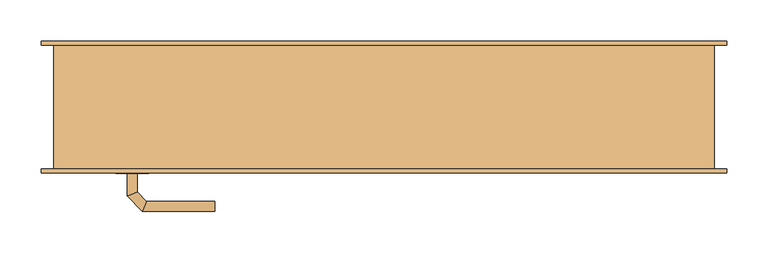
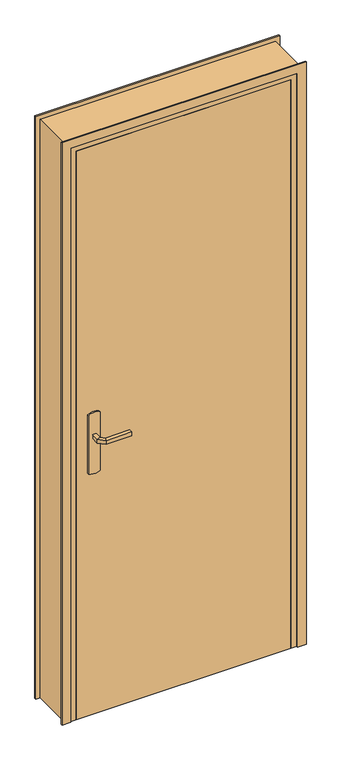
"""IFC4 building model written with IfcOpenShell, lengths in millimetres: door geometry, @_Int. Simple : @_PP (0.73m x 2.04m)."""

from ifc_helpers import new_model, si_unit, point, frame, frame_2d, origin, origin_with_axes, place, context, project, spatial, polyline, circle_curve, ellipse_curve, trimmed, segment, composite_curve, outline, extrude, faceted_brep, source, transform, mapped, element, save
from ifc_brep_helpers import plane_surface, cylinder_surface, advanced_brep


def door_1f832047(model_context):
    return source(origin(), model_context, "Body", "SolidModel", [
        extrude(outline(composite_curve([segment(trimmed(circle_curve(frame_2d((904.6410162, -340.0)), 40.0), [point((870.0, -360.0))], [point((870.0, -320.0))], False, "CARTESIAN"), True, "CONTINUOUS"), segment(polyline([(870.0, -320.0), (1080.0, -320.0)]), True, "CONTINUOUS"), segment(trimmed(circle_curve(frame_2d((1045.3589838, -340.0)), 40.0), [point((1080.0, -320.0))], [point((1080.0, -360.0))], False, "CARTESIAN"), True, "CONTINUOUS"), segment(polyline([(1080.0, -360.0), (870.0, -360.0)]), True, "CONTINUOUS")], self_intersect=False)), frame((0.0, -80.0, 0.0), z_axis=(0.0, 1.0, 0.0), x_axis=(0.0, 0.0, 1.0)), (0.0, 0.0, 1.0), 5.0),
        extrude(outline(composite_curve([segment(trimmed(circle_curve(frame_2d((1045.3589838, -340.0)), 40.0), [point((1080.0, -320.0))], [point((1080.0, -360.0))], False, "CARTESIAN"), True, "CONTINUOUS"), segment(polyline([(1080.0, -360.0), (870.0, -360.0)]), True, "CONTINUOUS"), segment(trimmed(circle_curve(frame_2d((904.6410162, -340.0)), 40.0), [point((870.0, -360.0))], [point((870.0, -320.0))], False, "CARTESIAN"), True, "CONTINUOUS"), segment(polyline([(870.0, -320.0), (1080.0, -320.0)]), True, "CONTINUOUS")], self_intersect=False)), frame((0.0, -35.0, 0.0), z_axis=(0.0, 1.0, 0.0), x_axis=(0.0, 0.0, 1.0)), (0.0, 0.0, 1.0), 5.0),
        advanced_brep(
        [(-346.0, -80.0, 1007.0), (-334.0, -80.0, 1007.0), (-334.0, -80.0, 993.0), (-346.0, -80.0, 993.0), (-346.0, -107.6509507, 1007.0), (-334.0, -102.680388, 1007.0), (-334.0, -102.680388, 993.0), (-346.0, -107.6509507, 993.0), (-327.62279, -126.0281607, 1007.0), (-322.6522273, -114.0281607, 1007.0), (-322.6522273, -114.0281607, 993.0), (-327.62279, -126.0281607, 993.0), (-239.9813594, -126.0281607, 1007.0), (-239.9813594, -126.0281607, 993.0), (-239.9813594, -114.0281607, 993.0), (-239.9813594, -114.0281607, 1007.0)],
        [
            (0, 1, circle_curve(frame((-340.0, -80.0, 986.9542278), z_axis=(0.0, 1.0, 0.0), x_axis=(1.0, 0.0, 0.0)), 20.9244589)),
            (1, 2),
            (2, 3, circle_curve(frame((-340.0, -80.0, 1013.0457722), z_axis=(0.0, 1.0, 0.0), x_axis=(1.0, 0.0, 0.0)), 20.9244589)),
            (3, 0),
            (0, 4),
            (4, 5, ellipse_curve(frame((-340.0, -105.1656693, 986.9542278), z_axis=(-0.3826834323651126, 0.9238795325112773, 0.0), x_axis=(0.9238795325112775, 0.38268343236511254, 0.0)), 22.6484711, 20.9244589)),
            (5, 1),
            (5, 6),
            (6, 2),
            (6, 7, ellipse_curve(frame((-340.0, -105.1656693, 1013.0457722), z_axis=(-0.3826834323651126, 0.9238795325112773, 0.0), x_axis=(0.9238795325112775, 0.38268343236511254, 0.0)), 22.6484711, 20.9244589)),
            (7, 3),
            (7, 4),
            (4, 8),
            (8, 9, ellipse_curve(frame((-325.1375086, -120.0281607, 986.9542278), z_axis=(-0.9238795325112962, 0.38268343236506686, 0.0), x_axis=(0.3826834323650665, 0.9238795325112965, 0.0)), 22.6484711, 20.9244589)),
            (9, 5),
            (9, 10),
            (10, 6),
            (10, 11, ellipse_curve(frame((-325.1375086, -120.0281607, 1013.0457722), z_axis=(-0.9238795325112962, 0.38268343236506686, 0.0), x_axis=(0.3826834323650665, 0.9238795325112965, 0.0)), 22.6484711, 20.9244589)),
            (11, 7),
            (11, 8),
            (12, 13),
            (13, 14, circle_curve(frame((-239.9813594, -120.0281607, 1013.0457722), z_axis=(1.0, 0.0, 0.0), x_axis=(0.0, 1.0, 0.0)), 20.9244589)),
            (14, 15),
            (15, 12, circle_curve(frame((-239.9813594, -120.0281607, 986.9542278), z_axis=(1.0, 0.0, 0.0), x_axis=(0.0, 1.0, 0.0)), 20.9244589)),
            (8, 12),
            (15, 9),
            (14, 10),
            (13, 11),
        ],
        [
            plane_surface(frame((-349.2195445, -80.0, 1000.0), z_axis=(0.0, 1.0, 0.0), x_axis=(0.0, 0.0, -1.0))),
            cylinder_surface(frame((-340.0, -80.0, 986.9542278), z_axis=(0.0, 1.0, 0.0), x_axis=(1.0, 0.0, 0.0)), 20.9244589),
            plane_surface(frame((-334.0, -80.0, 1007.0), z_axis=(1.0, 0.0, 0.0), x_axis=(0.0, -1.0, 0.0))),
            cylinder_surface(frame((-340.0, -80.0, 1013.0457722), z_axis=(0.0, 1.0, 0.0), x_axis=(1.0, 0.0, 0.0)), 20.9244589),
            plane_surface(frame((-346.0, -80.0, 993.0), z_axis=(-1.0, 0.0, 0.0), x_axis=(0.0, -1.0, 0.0))),
            cylinder_surface(frame((-340.0, -105.1656693, 986.9542278), z_axis=(-0.7071067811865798, 0.7071067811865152, 0.0), x_axis=(0.7071067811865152, 0.7071067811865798, 0.0)), 20.9244589),
            plane_surface(frame((-334.0, -102.680388, 1007.0), z_axis=(0.7071067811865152, 0.7071067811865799, 0.0), x_axis=(0.7071067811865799, -0.7071067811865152, 0.0))),
            cylinder_surface(frame((-340.0, -105.1656693, 1013.0457722), z_axis=(-0.7071067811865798, 0.7071067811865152, 0.0), x_axis=(0.7071067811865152, 0.7071067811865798, 0.0)), 20.9244589),
            plane_surface(frame((-346.0, -107.6509507, 993.0), z_axis=(-0.7071067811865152, -0.7071067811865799, 0.0), x_axis=(0.7071067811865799, -0.7071067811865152, 0.0))),
            plane_surface(frame((-239.9813594, -120.0281607, 990.7804555), z_axis=(1.0, 0.0, 0.0), x_axis=(0.0, 1.0, 0.0))),
            cylinder_surface(frame((-325.1375086, -120.0281607, 986.9542278), z_axis=(-1.0, 0.0, 0.0), x_axis=(0.0, 1.0, 0.0)), 20.9244589),
            plane_surface(frame((-322.6522273, -114.0281607, 1007.0), z_axis=(0.0, 1.0, 0.0), x_axis=(1.0, 0.0, 0.0))),
            cylinder_surface(frame((-325.1375086, -120.0281607, 1013.0457722), z_axis=(-1.0, 0.0, 0.0), x_axis=(0.0, 1.0, 0.0)), 20.9244589),
            plane_surface(frame((-327.62279, -126.0281607, 993.0), z_axis=(0.0, -1.0, 0.0), x_axis=(1.0, 0.0, 0.0))),
        ],
        [
            (0, [[1, 2, 3, 4]]),
            (1, [[-1, 5, 6, 7]]),
            (2, [[-2, -7, 8, 9]]),
            (3, [[-3, -9, 10, 11]]),
            (4, [[-4, -11, 12, -5]]),
            (5, [[-6, 13, 14, 15]]),
            (6, [[-8, -15, 16, 17]]),
            (7, [[-10, -17, 18, 19]]),
            (8, [[-12, -19, 20, -13]]),
            (9, [[21, 22, 23, 24]]),
            (10, [[-14, 25, -24, 26]]),
            (11, [[-16, -26, -23, 27]]),
            (12, [[-18, -27, -22, 28]]),
            (13, [[-20, -28, -21, -25]]),
        ],
    ),
        advanced_brep(
        [(-334.0, -30.0, 993.0), (-334.0, -30.0, 1007.0), (-346.0, -30.0, 1007.0), (-346.0, -30.0, 993.0), (-334.0, -7.5147955, 993.0), (-334.0, -7.5147955, 1007.0), (-346.0, -2.5442327, 1007.0), (-346.0, -2.5442327, 993.0), (-322.5147186, 3.9704859, 993.0), (-322.5147186, 3.9704859, 1007.0), (-327.4852814, 15.9704859, 1007.0), (-327.4852814, 15.9704859, 993.0), (-239.9542163, 3.9704859, 993.0), (-239.9542163, 15.9704859, 993.0), (-239.9542163, 15.9704859, 1007.0), (-239.9542163, 3.9704859, 1007.0)],
        [
            (0, 1),
            (1, 2, circle_curve(frame((-340.0, -30.0, 986.9542278), z_axis=(0.0, -1.0, 0.0), x_axis=(-1.0, 0.0, 0.0)), 20.9244589)),
            (2, 3),
            (3, 0, circle_curve(frame((-340.0, -30.0, 1013.0457722), z_axis=(0.0, -1.0, 0.0), x_axis=(-1.0, 0.0, 0.0)), 20.9244589)),
            (0, 4),
            (4, 5),
            (5, 1),
            (5, 6, ellipse_curve(frame((-340.0, -5.0295141, 986.9542278), z_axis=(-0.3826834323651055, -0.9238795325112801, 0.0), x_axis=(0.9238795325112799, -0.3826834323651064, 0.0)), 22.6484711, 20.9244589)),
            (6, 2),
            (6, 7),
            (7, 3),
            (7, 4, ellipse_curve(frame((-340.0, -5.0295141, 1013.0457722), z_axis=(-0.3826834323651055, -0.9238795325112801, 0.0), x_axis=(0.9238795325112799, -0.3826834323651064, 0.0)), 22.6484711, 20.9244589)),
            (4, 8),
            (8, 9),
            (9, 5),
            (9, 10, ellipse_curve(frame((-325.0, 9.9704859, 986.9542278), z_axis=(-0.9238795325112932, -0.382683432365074, 0.0), x_axis=(0.3826834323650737, -0.9238795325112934, 0.0)), 22.6484711, 20.9244589)),
            (10, 6),
            (10, 11),
            (11, 7),
            (11, 8, ellipse_curve(frame((-325.0, 9.9704859, 1013.0457722), z_axis=(-0.9238795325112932, -0.382683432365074, 0.0), x_axis=(0.3826834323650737, -0.9238795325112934, 0.0)), 22.6484711, 20.9244589)),
            (12, 13, circle_curve(frame((-239.9542163, 9.9704859, 1013.0457722), z_axis=(1.0, 0.0, 0.0), x_axis=(0.0, 1.0, 0.0)), 20.9244589)),
            (13, 14),
            (14, 15, circle_curve(frame((-239.9542163, 9.9704859, 986.9542278), z_axis=(1.0, 0.0, 0.0), x_axis=(0.0, 1.0, 0.0)), 20.9244589)),
            (15, 12),
            (8, 12),
            (15, 9),
            (14, 10),
            (13, 11),
        ],
        [
            plane_surface(frame((-349.2195445, -30.0, 1000.0), z_axis=(0.0, -1.0, 0.0), x_axis=(0.0, 0.0, 1.0))),
            plane_surface(frame((-334.0, -30.0, 993.0), z_axis=(1.0, 0.0, 0.0), x_axis=(0.0, 1.0, 0.0))),
            cylinder_surface(frame((-340.0, -30.0, 986.9542278), z_axis=(0.0, -1.0, 0.0), x_axis=(-1.0, 0.0, 0.0)), 20.9244589),
            plane_surface(frame((-346.0, -30.0, 1007.0), z_axis=(-1.0, 0.0, 0.0), x_axis=(0.0, 1.0, 0.0))),
            cylinder_surface(frame((-340.0, -30.0, 1013.0457722), z_axis=(0.0, -1.0, 0.0), x_axis=(-1.0, 0.0, 0.0)), 20.9244589),
            plane_surface(frame((-334.0, -7.5147955, 993.0), z_axis=(0.7071067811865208, -0.7071067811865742, 0.0), x_axis=(0.7071067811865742, 0.7071067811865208, 0.0))),
            cylinder_surface(frame((-340.0, -5.0295141, 986.9542278), z_axis=(-0.7071067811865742, -0.7071067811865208, 0.0), x_axis=(-0.7071067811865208, 0.7071067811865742, 0.0)), 20.9244589),
            plane_surface(frame((-346.0, -2.5442327, 1007.0), z_axis=(-0.7071067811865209, 0.7071067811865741, 0.0), x_axis=(0.7071067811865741, 0.7071067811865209, 0.0))),
            cylinder_surface(frame((-340.0, -5.0295141, 1013.0457722), z_axis=(-0.7071067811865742, -0.7071067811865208, 0.0), x_axis=(-0.7071067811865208, 0.7071067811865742, 0.0)), 20.9244589),
            plane_surface(frame((-239.9542163, 9.9704859, 990.7804555), z_axis=(1.0, 0.0, 0.0), x_axis=(0.0, 1.0, 0.0))),
            plane_surface(frame((-322.5147186, 3.9704859, 993.0), z_axis=(0.0, -1.0, 0.0), x_axis=(1.0, 0.0, 0.0))),
            cylinder_surface(frame((-325.0, 9.9704859, 986.9542278), z_axis=(-1.0, 0.0, 0.0), x_axis=(0.0, 1.0, 0.0)), 20.9244589),
            plane_surface(frame((-327.4852814, 15.9704859, 1007.0), z_axis=(0.0, 1.0, 0.0), x_axis=(1.0, 0.0, 0.0))),
            cylinder_surface(frame((-325.0, 9.9704859, 1013.0457722), z_axis=(-1.0, 0.0, 0.0), x_axis=(0.0, 1.0, 0.0)), 20.9244589),
        ],
        [
            (0, [[1, 2, 3, 4]]),
            (1, [[-1, 5, 6, 7]]),
            (2, [[-2, -7, 8, 9]]),
            (3, [[-3, -9, 10, 11]]),
            (4, [[-4, -11, 12, -5]]),
            (5, [[-6, 13, 14, 15]]),
            (6, [[-8, -15, 16, 17]]),
            (7, [[-10, -17, 18, 19]]),
            (8, [[-12, -19, 20, -13]]),
            (9, [[21, 22, 23, 24]]),
            (10, [[-14, 25, -24, 26]]),
            (11, [[-16, -26, -23, 27]]),
            (12, [[-18, -27, -22, 28]]),
            (13, [[-20, -28, -21, -25]]),
        ],
    ),
        extrude(outline(polyline([(-400.0, -35.0), (330.0, -35.0), (330.0, -75.0), (-400.0, -75.0), (-400.0, -35.0)])), origin_with_axes(), (0.0, 0.0, 1.0), 2040.0),
        faceted_brep([(-435.0, -75.0, 0.0), (-435.0, 75.0, 0.0), (-385.0, 75.0, 0.0), (-385.0, -35.0, 0.0), (-400.0, -35.0, 0.0), (-400.0, -75.0, 0.0), (-435.0, -75.0, 2075.0), (-435.0, 75.0, 2075.0), (365.0, 75.0, 2075.0), (365.0, 75.0, 0.0), (315.0, 75.0, 0.0), (315.0, 75.0, 2025.0), (-385.0, 75.0, 2025.0), (-385.0, -35.0, 2025.0), (315.0, -35.0, 2025.0), (315.0, -35.0, 0.0), (330.0, -35.0, 0.0), (330.0, -35.0, 2040.0), (-400.0, -35.0, 2040.0), (-400.0, -75.0, 2040.0), (330.0, -75.0, 2040.0), (330.0, -75.0, 0.0), (365.0, -75.0, 0.0), (365.0, -75.0, 2075.0)], [[[0, 1, 2, 3, 4, 5]], [[1, 0, 6, 7]], [[2, 1, 7, 8, 9, 10, 11, 12]], [[3, 2, 12, 13]], [[4, 3, 13, 14, 15, 16, 17, 18]], [[5, 4, 18, 19]], [[0, 5, 19, 20, 21, 22, 23, 6]], [[8, 23, 22, 9]], [[22, 21, 16, 15, 10, 9]], [[14, 11, 10, 15]], [[20, 17, 16, 21]], [[7, 6, 23, 8]], [[13, 12, 11, 14]], [[19, 18, 17, 20]]]),
        extrude(outline(polyline([(0.0, -450.0), (0.0, -420.0), (2060.0, -420.0), (2060.0, 350.0), (0.0, 350.0), (0.0, 380.0), (2090.0, 380.0), (2090.0, -450.0), (0.0, -450.0)])), frame((0.0, -80.0, 0.0), z_axis=(0.0, 1.0, 0.0), x_axis=(0.0, 0.0, 1.0)), (0.0, 0.0, 1.0), 5.0),
        extrude(outline(polyline([(0.0, -450.0), (0.0, -420.0), (2060.0, -420.0), (2060.0, 350.0), (0.0, 350.0), (0.0, 380.0), (2090.0, 380.0), (2090.0, -450.0), (0.0, -450.0)])), frame((0.0, 75.0, 0.0), z_axis=(0.0, 1.0, 0.0), x_axis=(0.0, 0.0, 1.0)), (0.0, 0.0, 1.0), 5.0),
    ])


if __name__ == "__main__":
    model = new_model("IFC4")
    model_context = context("Model", 3, world=origin())
    ifc_project = project(units=[si_unit("LENGTHUNIT", "METRE", prefix="MILLI")], contexts=[model_context])
    site = spatial("IfcSite", under=ifc_project)
    building = spatial("IfcBuilding", under=site)
    placement = place(None, origin())
    door_shape = door_1f832047(model_context)
    element("IfcDoor", 1, ObjectType="@_Int. Simple : @_PP (0.73m x 2.04m)", at=placement, inside=building, context=model_context, shape_type="MappedRepresentation", body=[
        mapped(door_shape, transform((0.0, 0.0, 0.0), x_axis=(1.0, 0.0, 0.0), y_axis=(0.0, 1.0, 0.0), z_axis=(0.0, 0.0, 1.0))),
    ])
    save(model, "model.ifc")
